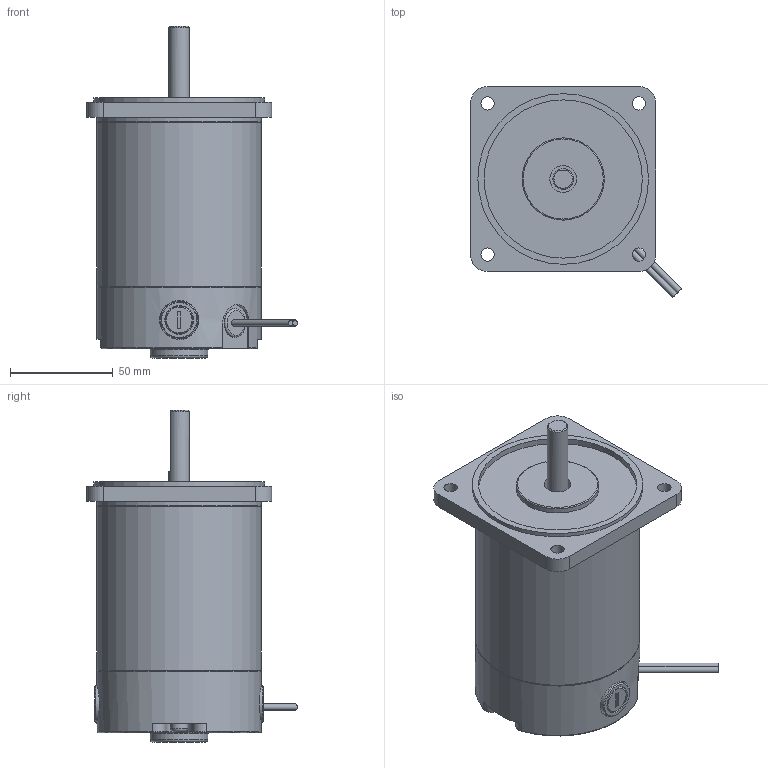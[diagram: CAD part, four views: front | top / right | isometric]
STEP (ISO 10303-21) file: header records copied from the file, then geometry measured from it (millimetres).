
FILE_DESCRIPTION((''),'2;1');
FILE_NAME('C:\Documents and Settings\ycw1227\바탕 화면\S9D40-ㅁD.stp','2013-06-05T11:08:40',('ycw1227'),(''),'Autodesk Inventor 2011','Autodesk Inventor 2011','');
FILE_SCHEMA(('AUTOMOTIVE_DESIGN { 1 0 10303 214 1 1 1 1 }'));
Length unit declared in the file: millimetre
Products named in the file (1): 부품6
Bounding box: 102.45 x 102.45 x 161.5 mm (x, y, z)
Volume: 627895 mm3; surface area: 57054 mm2
Topology: 1 solids, 3 shells, 165 faces, 385 edges, 250 vertices
Faces by surface type: plane 89, cylinder 46, cone 15, torus 15
Full cylindrical faces by diameter (mm): 3 x2, 5 x2, 6.5 x4, 8.5 x2, 9 x1, 10 x1, 13 x1, 13.5 x2, 14 x3, 18 x2, 19 x2, 28 x1, 40 x1, 77 x1, 80 x3, 83 x1
Entity records: 4779 total; most frequent: CARTESIAN_POINT 959, DIRECTION 775, ORIENTED_EDGE 684, EDGE_CURVE 342, AXIS2_PLACEMENT_3D 308, VERTEX_POINT 246, EDGE_LOOP 237, FACE_OUTER_BOUND 165
